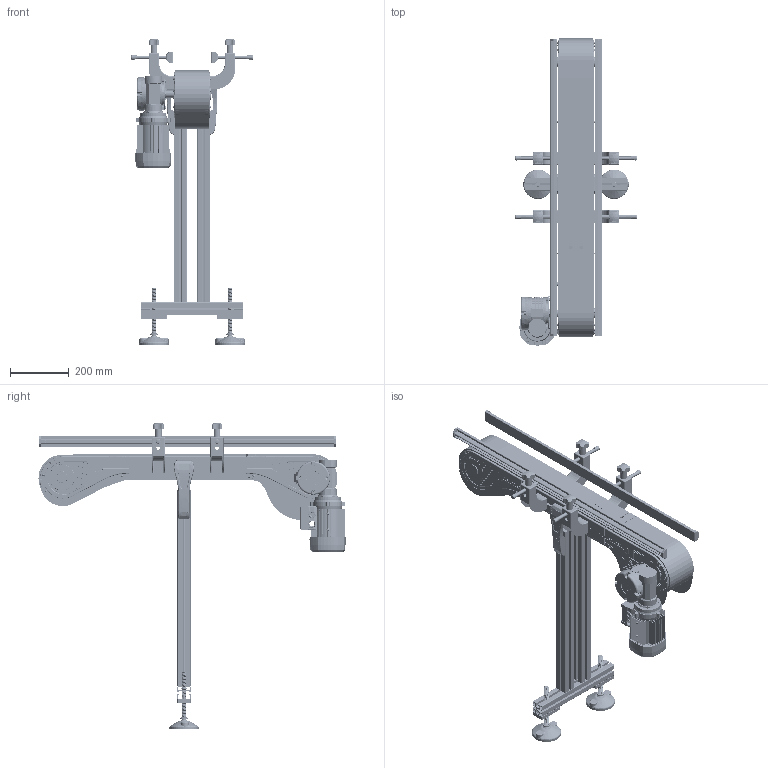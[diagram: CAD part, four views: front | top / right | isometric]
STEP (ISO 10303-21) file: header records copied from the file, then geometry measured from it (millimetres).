
FILE_DESCRIPTION (( 'STEP AP203' ), '1' );
FILE_NAME ('NASTRO_2010.step', '2026-04-30T07:28:34', ( 'Utente Windows' ), ( '' ), 'SwSTEP 2.0', 'SolidWorks 2024', '' );
FILE_SCHEMA (( 'CONFIG_CONTROL_DESIGN' ));
Length unit declared in the file: millimetre
Products named in the file (78): 084.307.027; SUPPORTO_SPONDA; 6205_2RS_AI_AF0; 0408UNI7380-A2; 084.307.006; 2010.000.070; GAMBE_KP450_Default<A macchina>; CHIAVETTE_A 8x7x20 UNI 6604-69; 2010.000.007; Circlip DIN 471 - 20 x 1.2_Circlip DIN 471 - 20 x 1.2; 084.711.005; 084.712.002; 2010.000.016; 2010.000.019_Default<A macchina>; VITI TE UNI 5739_M8x20 UNI 5739; PIEDE_K750; 6205_2RS_BOMB_AE_AF0; 0612UNI5931-A2; SPONDA_DIRITTO_Default<A macchina>; 084.711.002; 0612UNI5739-A2; 0832UNI6593-A2; 084.402.005; 2010.000.014; 2010.000.015; 2010.000.068; 2010.000.002; 084.808.013; 2010.000.068_L; NASTRO_2010; 6205_2RS_SEAL; 0824UNI6593-A2; 25UNI7435-A2; CH05P_DX; 2010.450.P.200; 2010.000.041; 6205-2RSBOMB; 2010.000.003; 2010.000.018_Default<A macchina>; 084.711.004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
Assembly tree (189 placements, depth 4):
  NASTRO_2010
    K450_1_Default<A macchina>
    2010.450.P.1B49.BR
      2010.000.003
      2010.000.004
      2010.000.025
      084.808.013
      2010.000.047
      6205-2RSBOMB  x2
        6205_2RS_AI_AF0
        6205_2RS_CAGE
        6205_2RS_BOMB_AE_AF0
        6205_2RS_SFERA
        6205_2RS_SEAL
      PFL205-SUPPORTO  x4
      2010.000.018_Default<A macchina>
      084.802.062
      0408UNI5933-A2  x10
      2010.000.007
      0408UNI7380-A2  x8
      084.307.006  x2
        084.307.006
        0814UNI5923-A2
      0816UNI7380-A2  x6
      CHIAVETTE_A 8x7x30 UNI 6604-69
      CHIAVETTE_A 8x7x20 UNI 6604-69  x2
      0832UNI6593-A2
      0820UNI5739-A2
      0812UNI5739-A2  x4
      0820ISO2342-A2
      2010.000.016
      084.803.017
      0612UNI5931-A2  x4
      2010.000.019_Default<A macchina>
      54801
      2010.000.014
      2010.000.005  x2
      0612UNI5739-A2  x4
      25UNI7435-A2  x5
    2010.450.P.200
      2010.000.001_Default<A macchina>
      2010.000.002
      2010.000.025
      2010.000.041
      2010.000.021
      2010.000.042_Default<A macchina>
      2010.000.043_Default<A macchina>
      0820UNI5739-A2  x2
      0824UNI6593-A2  x2
      Circlip DIN 471 - 20 x 1.2_Circlip DIN 471 - 20 x 1.2  x2
      2010.000.006
      0408UNI7380-A2  x8
      084.307.027  x2
        084.307.027
        0814UNI5923-A2
      0816UNI7380-A2  x6
      2010.000.015
      JFM-2023-11  x2
      2010.000.005  x2
      2010.000.014  x2
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Bounding box: 416.12 x 1048.81 x 1046.6 mm (x, y, z)
Volume: 11804885.9 mm3; surface area: 4572600.8 mm2
Topology: 272 solids, 272 shells, 18322 faces, 46781 edges, 29239 vertices
Faces by surface type: plane 8126, cylinder 4741, bspline 2263, cone 1637, torus 1095, sphere 460
Entity records: 474219 total; most frequent: CARTESIAN_POINT 183174, ORIENTED_EDGE 61832, DIRECTION 54742, EDGE_CURVE 30916, AXIS2_PLACEMENT_3D 19938, VERTEX_POINT 19348, VECTOR 14866, LINE 14866
